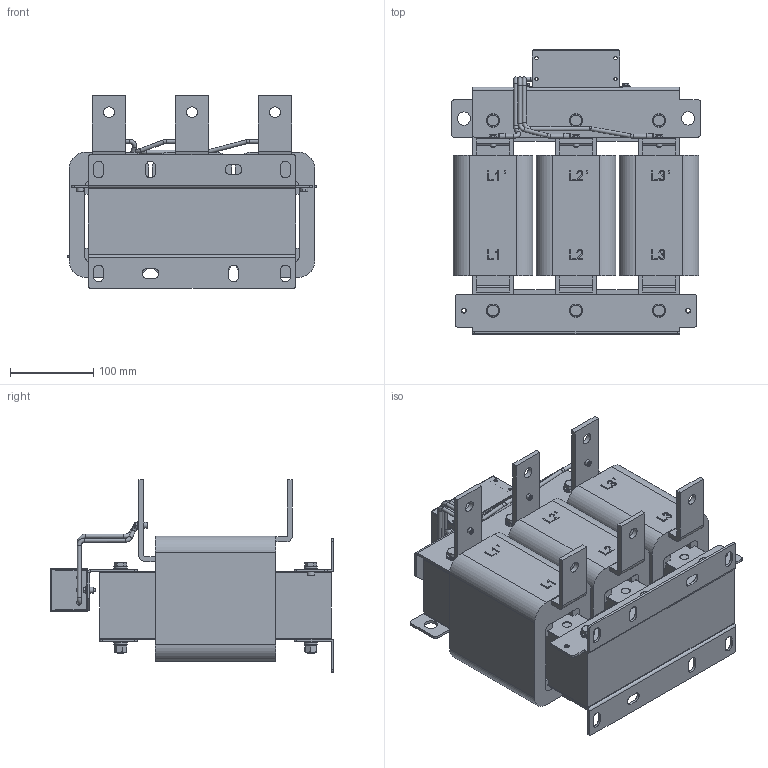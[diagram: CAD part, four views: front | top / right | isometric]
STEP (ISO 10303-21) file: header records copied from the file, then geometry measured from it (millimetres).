
FILE_DESCRIPTION(('STEP AP203'), '1');
FILE_NAME('IDUDT-250_530-4 _ dU_dt ôèëüòð 250 êÂò', '', ('UNSPECIFIED'), ('UNSPECIFIED'), 'C3D Converter', 'C3D Toolkit', '');
FILE_SCHEMA(('CONFIG_CONTROL_DESIGN'));
Length unit declared in the file: millimetre
Products named in the file (19): IDUDT-250/530-4
Assembly tree (75 placements, depth 2):
  IDUDT-250/530-4
    (unnamed)
    (unnamed)
    (unnamed)
    (unnamed)
    (unnamed)
    (unnamed)  x6
    (unnamed)  x24
    (unnamed)  x6
    (unnamed)  x6
    (unnamed)  x6
    (unnamed)  x5
    (unnamed)  x5
    (unnamed)  x3
    (unnamed)  x3
    (unnamed)  x3
    (unnamed)
    (unnamed)
    (unnamed)
Bounding box: 300 x 342 x 232 mm (x, y, z)
Volume: 8515739.3 mm3; surface area: 1221685.5 mm2
Topology: 91 solids, 91 shells, 1317 faces, 3045 edges, 1962 vertices
Faces by surface type: plane 825, cylinder 330, cone 122, bspline 27, torus 13
Full cylindrical faces by diameter (mm): 3 x5, 4 x26, 4.3 x3, 4.407 x3, 4.8 x16, 6 x3, 6.02 x3, 6.917 x6, 7 x5, 8 x6, 8.68 x6, 9 x31, 11 x30, 11.63 x6, 12.88 x6, 13 x6, 16 x26
Entity records: 43823 total; most frequent: CARTESIAN_POINT 17280, DIRECTION 3654, ORIENTED_EDGE 3574, EDGE_CURVE 1787, AXIS2_PLACEMENT_3D 1242, VERTEX_POINT 1222, LINE 1170, VECTOR 1170
